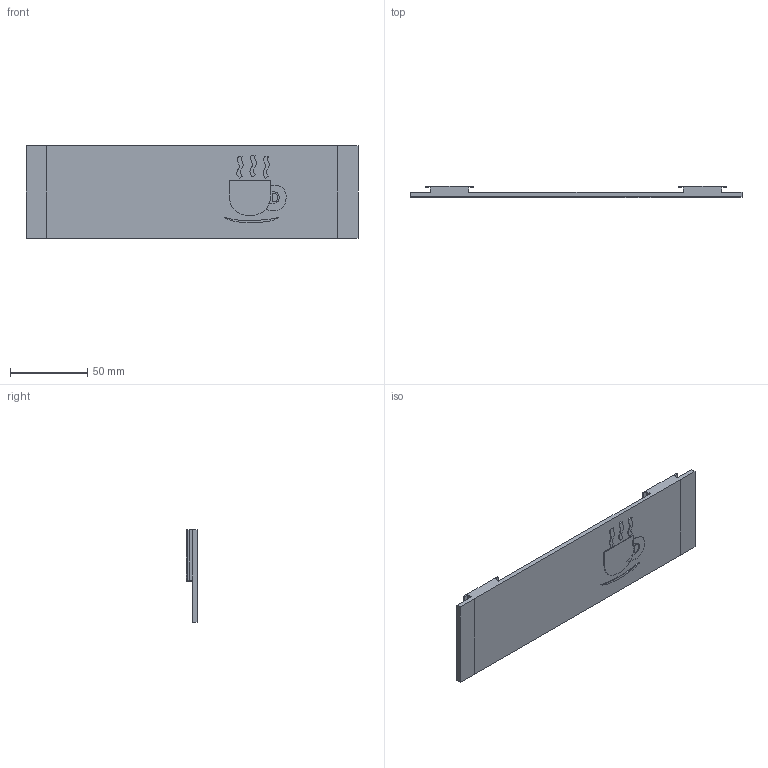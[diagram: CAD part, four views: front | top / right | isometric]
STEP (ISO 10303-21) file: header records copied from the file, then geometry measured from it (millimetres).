
FILE_DESCRIPTION(/* description */ (''),/* implementation_level */ '2;1');
FILE_NAME(/* name */ 'Kapsel Transportsicherung',/* time_stamp */ '2026-08-12T11:02:51+02:00',/* author */ (''),/* organization */ (''),/* preprocessor_version */ 'ST-DEVELOPER v19.2',/* originating_system */ 'Rhino 8.33',/* authorisation */ '');
FILE_SCHEMA (('CONFIG_CONTROL_DESIGN'));
Length unit declared in the file: millimetre
Products named in the file (1): Document
Bounding box: 215.2 x 7.5 x 60 mm (x, y, z)
Volume: 46167.2 mm3; surface area: 31008.8 mm2
Topology: 8 solids, 8 shells, 87 faces, 210 edges, 141 vertices
Faces by surface type: plane 64, bspline 19, cylinder 4
Entity records: 2585 total; most frequent: CARTESIAN_POINT 996, ORIENTED_EDGE 406, EDGE_CURVE 203, B_SPLINE_CURVE_WITH_KNOTS 192, VERTEX_POINT 132, DIRECTION 98, ADVANCED_FACE 87, FACE_OUTER_BOUND 87
